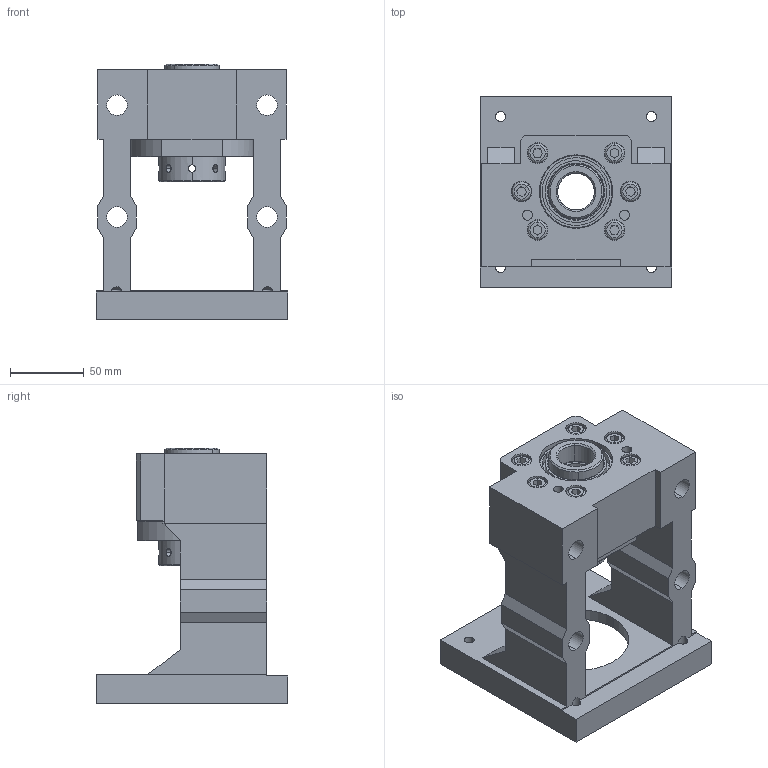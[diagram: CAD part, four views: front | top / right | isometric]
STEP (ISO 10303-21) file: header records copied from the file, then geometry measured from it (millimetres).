
FILE_DESCRIPTION (( 'STEP AP203' ), '1' );
FILE_NAME ('MBCS25-G.STEP', '2026-03-02T03:49:28', ( '' ), ( '' ), 'SwSTEP 2.0', 'SolidWorks 2018', '' );
FILE_SCHEMA (( 'CONFIG_CONTROL_DESIGN' ));
Length unit declared in the file: millimetre
Products named in the file (2): MBCS25-G
Bounding box: 130 x 130 x 174 mm (x, y, z)
Surface area: 155634.2 mm2 (no closed solid volume)
Topology: 0 solids, 25 shells, 321 faces, 892 edges, 589 vertices
Faces by surface type: plane 122, cylinder 117, cone 56, torus 26
Entity records: 11657 total; most frequent: CARTESIAN_POINT 3222, DIRECTION 1795, ORIENTED_EDGE 1563, EDGE_CURVE 888, AXIS2_PLACEMENT_3D 690, VERTEX_POINT 589, VECTOR 415, LINE 415
